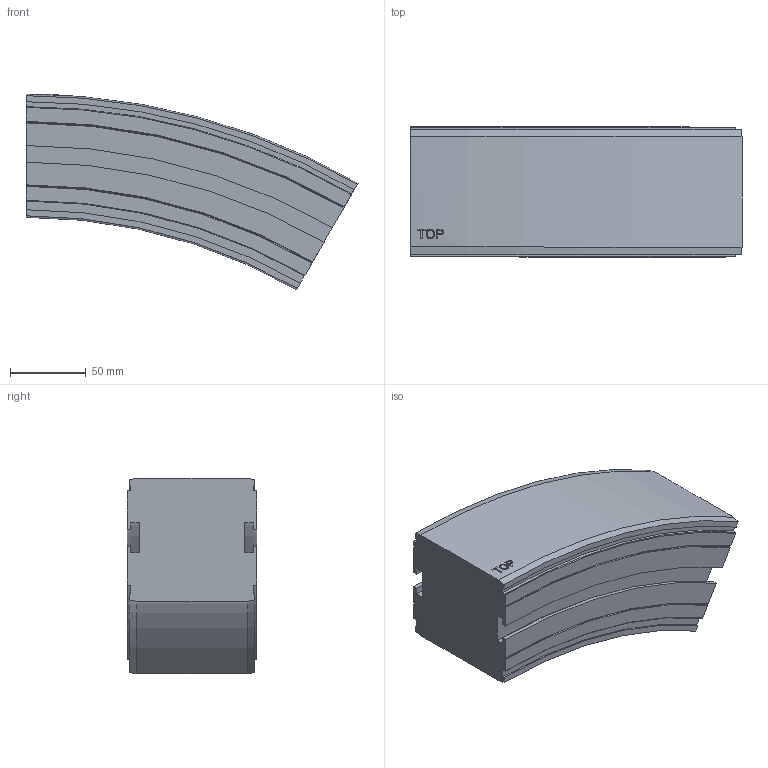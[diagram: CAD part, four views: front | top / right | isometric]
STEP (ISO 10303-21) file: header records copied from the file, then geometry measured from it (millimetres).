
FILE_DESCRIPTION((''),'2;1');
FILE_NAME('C:\Vault Klient\Projekt\Koncept konstruktion\Serie 830 Balk\830-5610_DOWN.stp','2009-11-27T10:28:33',('Mathias'),(''),'Autodesk Inventor 2010','Autodesk Inventor 2010','');
FILE_SCHEMA(('AUTOMOTIVE_DESIGN { 1 0 10303 214 1 1 1 1 }'));
Length unit declared in the file: millimetre
Products named in the file (1): 830-5610_DOWN
Bounding box: 219.75 x 86 x 129.46 mm (x, y, z)
Volume: 1387794.7 mm3; surface area: 98662.4 mm2
Topology: 1 solids, 1 shells, 93 faces, 258 edges, 172 vertices
Faces by surface type: plane 40, cylinder 23, bspline 14, cone 12, torus 4
Entity records: 3397 total; most frequent: CARTESIAN_POINT 962, ORIENTED_EDGE 516, DIRECTION 472, EDGE_CURVE 258, VERTEX_POINT 172, AXIS2_PLACEMENT_3D 162, VECTOR 148, LINE 148
